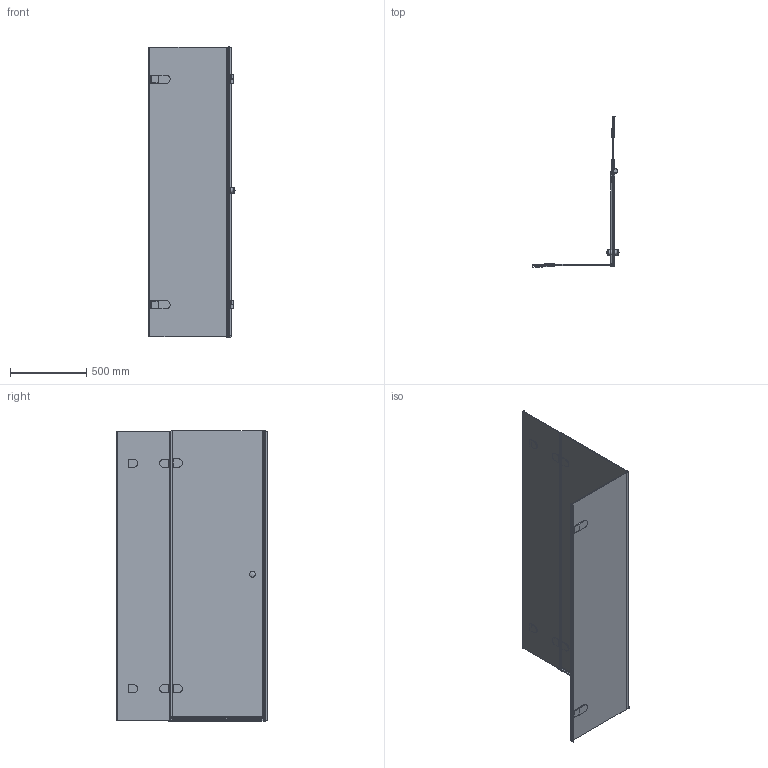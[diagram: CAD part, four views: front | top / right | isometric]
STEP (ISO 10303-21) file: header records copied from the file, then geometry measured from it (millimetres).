
FILE_DESCRIPTION(/* description */ (''),/* implementation_level */ '2;1');
FILE_NAME(/* name */ 'E:\Работа\Сергей\Душевые кабинки\! Работа\LUX SQUARE GK-003GA-2522\LUX SQUARE GK-003GA-2522 правая модель\LUX SQUARE GK-003GA-2522 ПРАВАЯ-3D.stp',/* time_stamp */ '2017-06-03T11:24:19+03:00',/* author */ ('PC'),/* organization */ (''),/* preprocessor_version */ 'ST-DEVELOPER v15.2',/* originating_system */ 'Autodesk Inventor 2014',/* authorisation */ '');
FILE_SCHEMA (('AUTOMOTIVE_DESIGN { 1 0 10303 214 3 1 1 }'));
Length unit declared in the file: millimetre
Products named in the file (1): LUX SQUARE GK-003GA-2522 ПРАВАЯ-
3D
Bounding box: 564.36 x 991.96 x 1902 mm (x, y, z)
Volume: 17969438.1 mm3; surface area: 6230785.4 mm2
Topology: 3 solids, 3 shells, 653 faces, 1598 edges, 989 vertices
Faces by surface type: plane 475, cylinder 159, torus 13, sphere 4, bspline 2
Full cylindrical faces by diameter (mm): 38 x4
Entity records: 19740 total; most frequent: CARTESIAN_POINT 3539, DIRECTION 3199, ORIENTED_EDGE 3184, EDGE_CURVE 1592, LINE 1229, VECTOR 1229, VERTEX_POINT 989, AXIS2_PLACEMENT_3D 985
